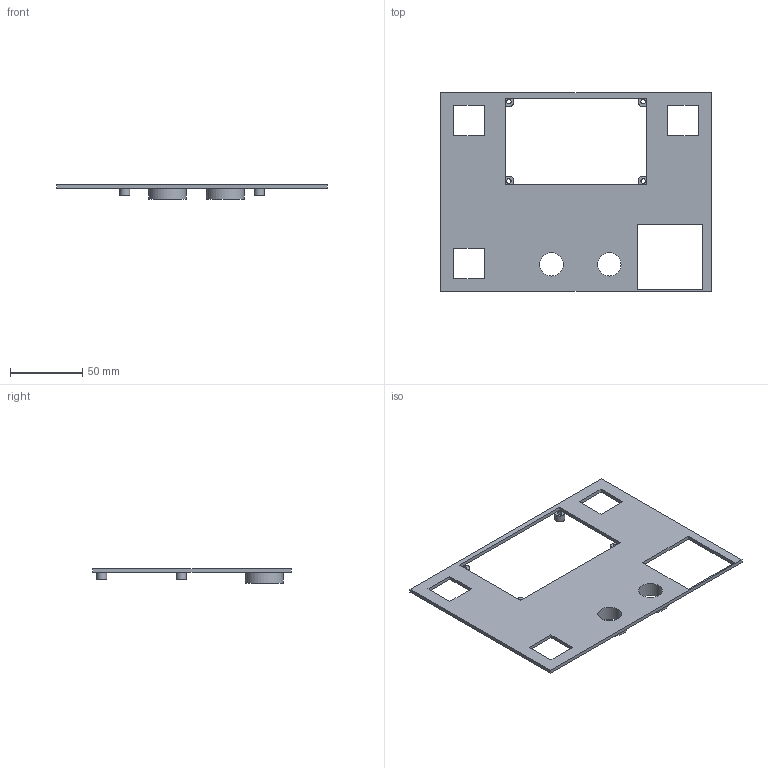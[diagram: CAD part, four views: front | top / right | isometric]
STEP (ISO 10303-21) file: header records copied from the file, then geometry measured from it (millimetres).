
FILE_DESCRIPTION(('Open CASCADE Model'),'2;1');
FILE_NAME('Open CASCADE Shape Model','2026-10-02T15:58:36',('Author'),( 'Open CASCADE'),'Open CASCADE STEP processor 8.0','build123d', 'Unknown');
FILE_SCHEMA(('AUTOMOTIVE_DESIGN { 1 0 10303 214 1 1 1 1 }'));
Length unit declared in the file: millimetre
Products named in the file (1): COMPOUND
Bounding box: 187.4 x 137.4 x 10 mm (x, y, z)
Volume: 45606.1 mm3; surface area: 38713.5 mm2
Topology: 1 solids, 1 shells, 48 faces, 140 edges, 88 vertices
Faces by surface type: plane 36, cylinder 12
Full cylindrical faces by diameter (mm): 3.2 x4, 7 x4, 16.3 x2, 26 x2
Entity records: 3362 total; most frequent: CARTESIAN_POINT 661, DIRECTION 454, ORIENTED_EDGE 280, PCURVE 280, DEFINITIONAL_REPRESENTATION 280, LINE 236, VECTOR 236, EDGE_CURVE 140
